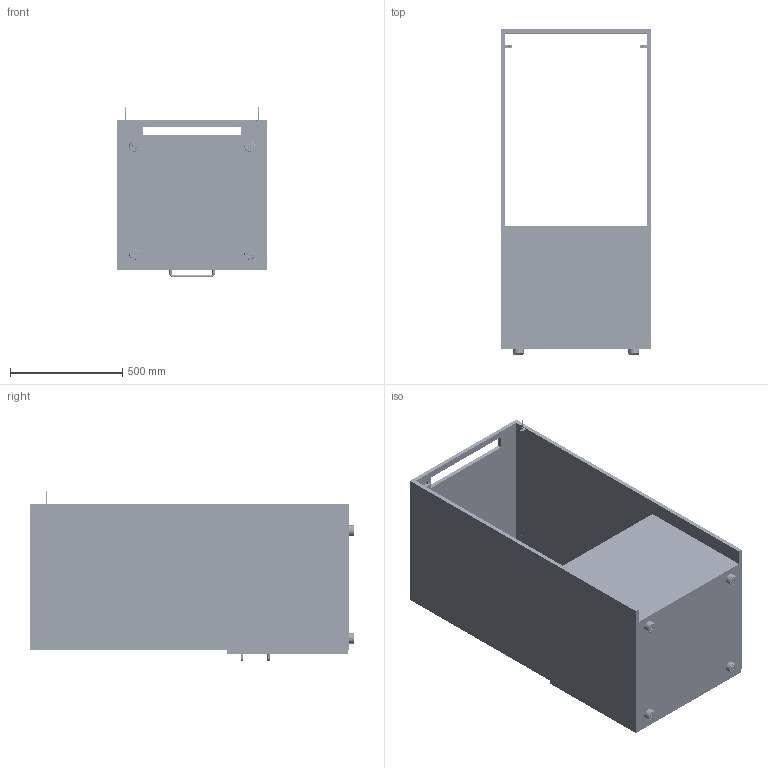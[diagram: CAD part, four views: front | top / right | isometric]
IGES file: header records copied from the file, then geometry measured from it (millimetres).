
Global section: file name: 3D Dosyası,; native system: Autodesk Inventor 2024; preprocessor: unknown; author: pc11; date: 20260115.093551; units: millimetre
Bounding box: 670 x 1450 x 761.5 mm (x, y, z)
Volume: 104495550.6 mm3; surface area: 11788378.1 mm2
Topology: 209 solids, 209 shells, 16710 faces, 47125 edges, 31198 vertices
Faces by surface type: bspline 16710
